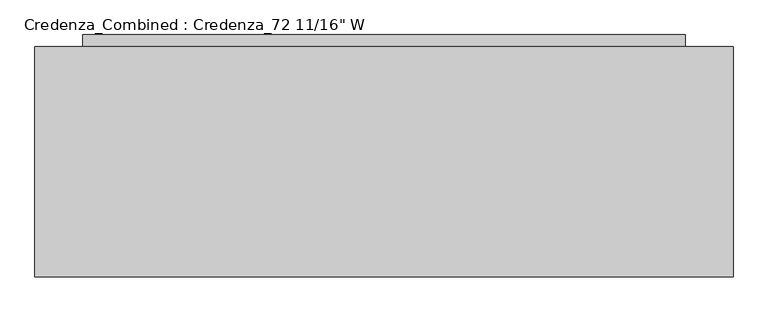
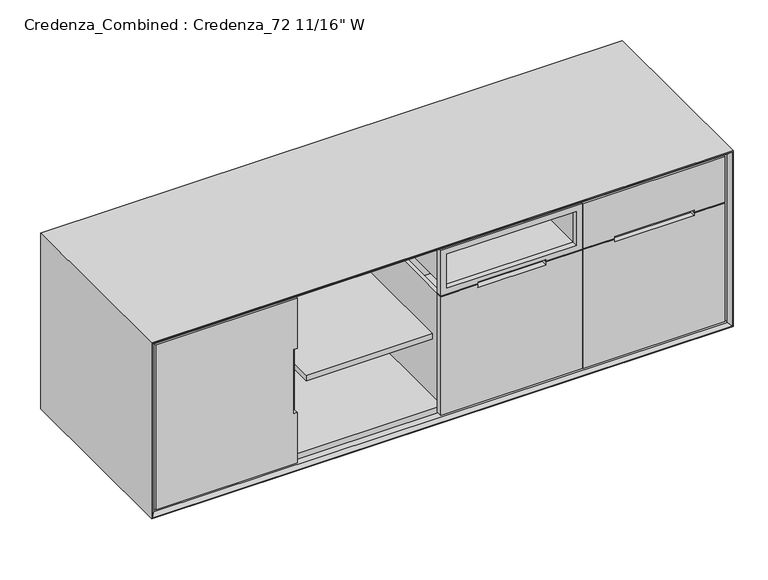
"""IFC4 building model written with IfcOpenShell, lengths in millimetres: furniture geometry."""

from ifc_helpers import new_model, si_unit, frame, origin, origin_with_axes, place, context, project, spatial, polyline, outline, extrude, faceted_brep, source, transform, mapped, element, save


def furniture_91a3ec11(model_context):
    return source(origin(), model_context, "Body", "SolidModel", [
        faceted_brep([(1750.3457407, 93.4200979, 124.61875), (1750.3457407, 244.7174021, 124.61875), (1451.6417593, 244.7174021, 124.61875), (1451.6417593, 93.4200979, 124.61875), (1756.3716657, 250.7433271, 118.26875), (1756.3716657, 87.3941729, 118.26875), (1445.6158343, 87.3941729, 118.26875), (1445.6158343, 250.7433271, 118.26875), (1788.9970885, 283.36875, 492.91875), (1788.9970885, 283.36875, 499.26875), (1788.9970885, 54.76875, 499.26875), (1788.9970885, 54.76875, 492.91875), (1776.2970885, 270.66875, 492.91875), (1776.2970885, 67.46875, 492.91875), (1770.2711635, 264.642825, 499.26875), (1770.2711635, 73.494675, 499.26875), (1412.9904115, 54.76875, 499.26875), (1412.9904115, 54.76875, 492.91875), (1425.6904115, 67.46875, 492.91875), (1431.7163365, 73.494675, 499.26875), (1412.9904115, 283.36875, 499.26875), (1412.9904115, 283.36875, 492.91875), (1425.6904115, 270.66875, 492.91875), (1431.7163365, 264.642825, 499.26875)], [[[0, 1, 2, 3]], [[4, 5, 6, 7]], [[8, 9, 10, 11]], [[4, 12, 13, 5]], [[14, 1, 0, 15]], [[11, 10, 16, 17]], [[5, 13, 18, 6]], [[15, 0, 3, 19]], [[17, 16, 20, 21]], [[6, 18, 22, 7]], [[19, 3, 2, 23]], [[9, 8, 21, 20]], [[8, 11, 17, 21], [13, 12, 22, 18]], [[12, 4, 7, 22]], [[1, 14, 23, 2]], [[10, 9, 20, 16], [14, 15, 19, 23]]]),
        faceted_brep([(1750.3457407, 383.9325979, 124.61875), (1750.3457407, 535.2299021, 124.61875), (1451.6417593, 535.2299021, 124.61875), (1451.6417593, 383.9325979, 124.61875), (1756.3716657, 541.2558271, 118.26875), (1756.3716657, 377.9066729, 118.26875), (1445.6158343, 377.9066729, 118.26875), (1445.6158343, 541.2558271, 118.26875), (1788.9970885, 573.88125, 492.91875), (1788.9970885, 573.88125, 499.26875), (1788.9970885, 345.28125, 499.26875), (1788.9970885, 345.28125, 492.91875), (1776.2970885, 561.18125, 492.91875), (1776.2970885, 357.98125, 492.91875), (1770.2711635, 555.155325, 499.26875), (1770.2711635, 364.007175, 499.26875), (1412.9904115, 345.28125, 499.26875), (1412.9904115, 345.28125, 492.91875), (1425.6904115, 357.98125, 492.91875), (1431.7163365, 364.007175, 499.26875), (1412.9904115, 573.88125, 499.26875), (1412.9904115, 573.88125, 492.91875), (1425.6904115, 561.18125, 492.91875), (1431.7163365, 555.155325, 499.26875)], [[[0, 1, 2, 3]], [[4, 5, 6, 7]], [[8, 9, 10, 11]], [[4, 12, 13, 5]], [[14, 1, 0, 15]], [[11, 10, 16, 17]], [[5, 13, 18, 6]], [[15, 0, 3, 19]], [[17, 16, 20, 21]], [[6, 18, 22, 7]], [[19, 3, 2, 23]], [[9, 8, 21, 20]], [[8, 11, 17, 21], [13, 12, 22, 18]], [[12, 4, 7, 22]], [[1, 14, 23, 2]], [[10, 9, 20, 16], [14, 15, 19, 23]]]),
        extrude(outline(polyline([(1793.875, 319.0875), (1793.875, 300.0375), (1406.525, 300.0375), (1406.525, 319.0875), (1793.875, 319.0875)])), frame((0.0, 0.0, 118.26875), z_axis=(0.0, 0.0, 1.0), x_axis=(1.0, 0.0, 0.0)), (0.0, 0.0, 1.0), 360.3625),
        faceted_brep([(1808.1625, 609.6, 478.63125), (1393.825, 609.6, 478.63125), (1393.825, 28.575, 478.63125), (1808.1625, 28.575, 478.63125), (1406.525, 596.9, 478.63125), (1793.875, 596.9, 478.63125), (1793.875, 41.275, 478.63125), (1406.525, 41.275, 478.63125), (1808.1625, 609.6, 105.56875), (1393.825, 609.6, 105.56875), (1393.825, 28.575, 105.56875), (1808.1625, 28.575, 105.56875), (1406.525, 596.9, 118.26875), (1793.875, 596.9, 118.26875), (1793.875, 41.275, 118.26875), (1406.525, 41.275, 118.26875)], [[[0, 1, 2, 3], [4, 5, 6, 7]], [[1, 0, 8, 9]], [[2, 1, 9, 10]], [[3, 2, 10, 11]], [[8, 0, 3, 11]], [[5, 4, 12, 13]], [[6, 5, 13, 14]], [[7, 6, 14, 15]], [[4, 7, 15, 12]], [[13, 12, 15, 14]], [[8, 11, 10, 9]]]),
        extrude(outline(polyline([(504.03125, 1376.3625), (105.56875, 1376.3625), (105.56875, 1825.625), (504.03125, 1825.625), (504.03125, 1727.99375), (494.7030946, 1727.99375), (494.7030946, 1473.99375), (504.03125, 1473.99375), (504.03125, 1376.3625)])), frame((0.0, 9.525, 0.0), z_axis=(0.0, 1.0, 0.0), x_axis=(0.0, 0.0, 1.0)), (0.0, 0.0, 1.0), 19.05),
        extrude(outline(polyline([(659.60625, 1825.625), (659.60625, 1376.3625), (507.20625, 1376.3625), (507.20625, 1473.99375), (513.3594054, 1473.99375), (513.3594054, 1727.99375), (507.20625, 1727.99375), (507.20625, 1825.625), (659.60625, 1825.625)])), frame((0.0, 9.525, 0.0), z_axis=(0.0, 1.0, 0.0), x_axis=(0.0, 0.0, 1.0)), (0.0, 0.0, 1.0), 19.05),
        extrude(outline(polyline([(1355.725, 609.6), (1355.725, 28.575), (941.3875, 28.575), (941.3875, 609.6), (1355.725, 609.6)]), holes=[polyline([(954.0875, 596.9), (954.0875, 41.275), (1341.4375, 41.275), (1341.4375, 596.9), (954.0875, 596.9)])]), frame((0.0, 0.0, 118.26875), z_axis=(0.0, 0.0, 1.0), x_axis=(1.0, 0.0, 0.0)), (0.0, 0.0, 1.0), 360.3625),
        extrude(outline(polyline([(642.14375, 1355.725), (642.14375, 941.3875), (524.66875, 941.3875), (524.66875, 1355.725), (642.14375, 1355.725)]), holes=[polyline([(640.55625, 1354.1375), (526.25625, 1354.1375), (526.25625, 942.975), (640.55625, 942.975), (640.55625, 1354.1375)])]), frame((0.0, 28.575, 0.0), z_axis=(0.0, 1.0, 0.0), x_axis=(0.0, 0.0, 1.0)), (0.0, 0.0, 1.0), 581.025),
        extrude(outline(polyline([(504.03125, 923.925), (105.56875, 923.925), (105.56875, 1373.1875), (504.03125, 1373.1875), (504.03125, 1256.50625), (494.7030946, 1256.50625), (494.7030946, 1040.60625), (504.03125, 1040.60625), (504.03125, 923.925)])), frame((0.0, 9.525, 0.0), z_axis=(0.0, 1.0, 0.0), x_axis=(0.0, 0.0, 1.0)), (0.0, 0.0, 1.0), 19.05),
        extrude(outline(polyline([(659.60625, 1373.1875), (659.60625, 923.925), (507.20625, 923.925), (507.20625, 1040.60625), (513.3594054, 1040.60625), (513.3594054, 1256.50625), (507.20625, 1256.50625), (507.20625, 1373.1875), (659.60625, 1373.1875)]), holes=[polyline([(640.55625, 942.975), (640.55625, 1354.1375), (526.25625, 1354.1375), (526.25625, 942.975), (640.55625, 942.975)])]), frame((0.0, 9.525, 0.0), z_axis=(0.0, 1.0, 0.0), x_axis=(0.0, 0.0, 1.0)), (0.0, 0.0, 1.0), 19.05),
        extrude(outline(polyline([(896.14375, 609.6), (896.14375, 9.525), (496.09375, 9.525), (496.09375, 609.6), (896.14375, 609.6)])), frame((0.0, 0.0, 371.475), z_axis=(0.0, 0.0, 1.0), x_axis=(1.0, 0.0, 0.0)), (0.0, 0.0, 1.0), 19.05),
        extrude(outline(polyline([(1719.2625, 609.6), (1719.2625, 241.3), (127.0, 241.3), (127.0, 609.6), (1719.2625, 609.6)])), origin_with_axes(), (0.0, 0.0, 1.0), 87.3125),
        extrude(outline(polyline([(1719.2625, 641.35), (1719.2625, 609.6), (127.0, 609.6), (127.0, 641.35), (1719.2625, 641.35)])), origin_with_axes(), (0.0, 0.0, 1.0), 647.7),
        extrude(outline(polyline([(665.1625, 1833.5625), (665.1625, 12.7), (100.0125, 12.7), (100.0125, 1833.5625), (665.1625, 1833.5625)]), holes=[polyline([(646.1125, 31.75), (646.1125, 1814.5125), (119.0625, 1814.5125), (119.0625, 31.75), (646.1125, 31.75)])]), frame((0.0, 31.75, 0.0), z_axis=(0.0, 1.0, 0.0), x_axis=(0.0, 0.0, 1.0)), (0.0, 0.0, 1.0), 577.85),
        faceted_brep([(1833.5625, 9.525, 665.1625), (1833.5625, 609.6, 665.1625), (1833.5625, 609.6, 100.0125), (1833.5625, 9.525, 100.0125), (1843.0875, 0.0, 674.6875), (1843.0875, 0.0, 90.4875), (1846.2625, 609.6, 677.8625), (1846.2625, 0.0, 677.8625), (1846.2625, 0.0, 87.3125), (1846.2625, 609.6, 87.3125), (12.7, 609.6, 100.0125), (12.7, 9.525, 100.0125), (3.175, 0.0, 90.4875), (0.0, 0.0, 87.3125), (0.0, 609.6, 87.3125), (12.7, 609.6, 665.1625), (12.7, 9.525, 665.1625), (3.175, 0.0, 674.6875), (0.0, 0.0, 677.8625), (0.0, 609.6, 677.8625)], [[[0, 1, 2, 3]], [[4, 0, 3, 5]], [[6, 7, 8, 9]], [[3, 2, 10, 11]], [[5, 3, 11, 12]], [[9, 8, 13, 14]], [[11, 10, 15, 16]], [[12, 11, 16, 17]], [[14, 13, 18, 19]], [[9, 14, 19, 6], [1, 15, 10, 2]], [[16, 15, 1, 0]], [[17, 16, 0, 4]], [[7, 18, 13, 8], [5, 12, 17, 4]], [[19, 18, 7, 6]]]),
        faceted_brep([(468.3125, 28.575, 659.60625), (19.05, 28.575, 659.60625), (19.05, 9.525, 659.60625), (468.3125, 9.525, 659.60625), (468.3125, 28.575, 105.56875), (468.3125, 9.525, 105.56875), (19.05, 9.525, 105.56875), (19.05, 28.575, 105.56875), (468.3125, 9.525, 274.6375), (455.6125, 9.525, 274.6375), (455.6125, 9.525, 490.5375), (468.3125, 9.525, 490.5375), (468.3125, 25.4, 490.5375), (468.3125, 25.4, 274.6375), (455.6125, 25.4, 490.5375), (455.6125, 25.4, 274.6375)], [[[0, 1, 2, 3]], [[4, 5, 6, 7]], [[1, 0, 4, 7]], [[2, 1, 7, 6]], [[3, 2, 6, 5, 8, 9, 10, 11]], [[0, 3, 11, 12, 13, 8, 5, 4]], [[12, 14, 15, 13]], [[14, 12, 11, 10]], [[15, 14, 10, 9]], [[13, 15, 9, 8]]]),
        extrude(outline(polyline([(468.3125, 609.6), (468.3125, 28.575), (19.05, 28.575), (19.05, 609.6), (468.3125, 609.6)])), frame((0.0, 0.0, 382.5875), z_axis=(0.0, 0.0, 1.0), x_axis=(1.0, 0.0, 0.0)), (0.0, 0.0, 1.0), 19.05),
    ])


if __name__ == "__main__":
    model = new_model("IFC4")
    model_context = context("Model", 3, world=origin())
    ifc_project = project(units=[si_unit("LENGTHUNIT", "METRE", prefix="MILLI")], contexts=[model_context])
    site = spatial("IfcSite", under=ifc_project)
    building = spatial("IfcBuilding", under=site)
    placement = place(None, origin())
    furniture_shape = furniture_91a3ec11(model_context)
    element("IfcFurniture", 1, ObjectType="Credenza_Combined : Credenza_72 11/16\" W", at=placement, inside=building, context=model_context, shape_type="MappedRepresentation", body=[
        mapped(furniture_shape, transform((0.0, 0.0, 0.0), x_axis=(1.0, 0.0, 0.0), y_axis=(0.0, 1.0, 0.0), z_axis=(0.0, 0.0, 1.0))),
    ])
    save(model, "model.ifc")
